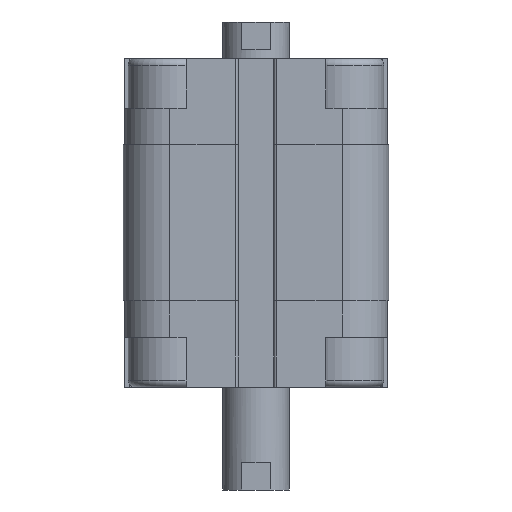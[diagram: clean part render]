
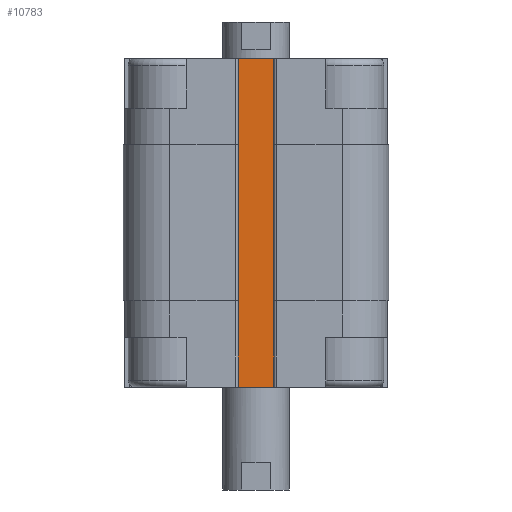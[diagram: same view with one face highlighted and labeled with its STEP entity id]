
A CAD part, front view. The second image highlights one B-rep face of the part: STEP entity #10783.
In plain terms, the highlighted planar face has unit normal (0, -1, 0).
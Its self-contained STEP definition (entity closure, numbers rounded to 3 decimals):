
#193 = EDGE_CURVE ( 'NONE', #8926, #1159, #12243, .T. ) ;
#505 = CARTESIAN_POINT ( 'NONE',  ( -3., -15., 0. ) ) ;
#1159 = VERTEX_POINT ( 'NONE', #3074 ) ;
#1999 = CARTESIAN_POINT ( 'NONE',  ( -3., -15., -49.5 ) ) ;
#2500 = CARTESIAN_POINT ( 'NONE',  ( -3., -15., -49.5 ) ) ;
#3074 = CARTESIAN_POINT ( 'NONE',  ( 3., -15., 0. ) ) ;
#3551 = DIRECTION ( 'NONE',  ( 1., 0., 0. ) ) ;
#4044 = DIRECTION ( 'NONE',  ( -1., 0., 0. ) ) ;
#4247 = EDGE_CURVE ( 'NONE', #4498, #1159, #10721, .T. ) ;
#4498 = VERTEX_POINT ( 'NONE', #14278 ) ;
#5317 = LINE ( 'NONE', #2500, #14559 ) ;
#5950 = VECTOR ( 'NONE', #13750, 1000. ) ;
#6219 = AXIS2_PLACEMENT_3D ( 'NONE', #12381, #16607, #4044 ) ;
#6949 = PLANE ( 'NONE',  #6219 ) ;
#7213 = CARTESIAN_POINT ( 'NONE',  ( 3., -15., -49.5 ) ) ;
#8560 = ORIENTED_EDGE ( 'NONE', *, *, #4247, .F. ) ;
#8926 = VERTEX_POINT ( 'NONE', #7213 ) ;
#9177 = EDGE_CURVE ( 'NONE', #16875, #8926, #5317, .T. ) ;
#9863 = EDGE_CURVE ( 'NONE', #16875, #4498, #11468, .T. ) ;
#10721 = LINE ( 'NONE', #505, #12871 ) ;
#10783 = ADVANCED_FACE ( 'NONE', ( #12662 ), #6949, .T. ) ;
#11468 = LINE ( 'NONE', #13170, #14267 ) ;
#12243 = LINE ( 'NONE', #13934, #5950 ) ;
#12381 = CARTESIAN_POINT ( 'NONE',  ( -3., -15., -13. ) ) ;
#12662 = FACE_OUTER_BOUND ( 'NONE', #14427, .T. ) ;
#12871 = VECTOR ( 'NONE', #15048, 1000. ) ;
#12973 = DIRECTION ( 'NONE',  ( 0., 0., 1. ) ) ;
#13170 = CARTESIAN_POINT ( 'NONE',  ( -3., -15., -13. ) ) ;
#13750 = DIRECTION ( 'NONE',  ( 0., 0., 1. ) ) ;
#13934 = CARTESIAN_POINT ( 'NONE',  ( 3., -15., -13. ) ) ;
#14267 = VECTOR ( 'NONE', #12973, 1000. ) ;
#14278 = CARTESIAN_POINT ( 'NONE',  ( -3., -15., 0. ) ) ;
#14427 = EDGE_LOOP ( 'NONE', ( #8560, #16066, #15942, #18491 ) ) ;
#14559 = VECTOR ( 'NONE', #3551, 1000. ) ;
#15048 = DIRECTION ( 'NONE',  ( 1., 0., 0. ) ) ;
#15942 = ORIENTED_EDGE ( 'NONE', *, *, #9177, .T. ) ;
#16066 = ORIENTED_EDGE ( 'NONE', *, *, #9863, .F. ) ;
#16607 = DIRECTION ( 'NONE',  ( 0., -1., 0. ) ) ;
#16875 = VERTEX_POINT ( 'NONE', #1999 ) ;
#18491 = ORIENTED_EDGE ( 'NONE', *, *, #193, .T. ) ;
